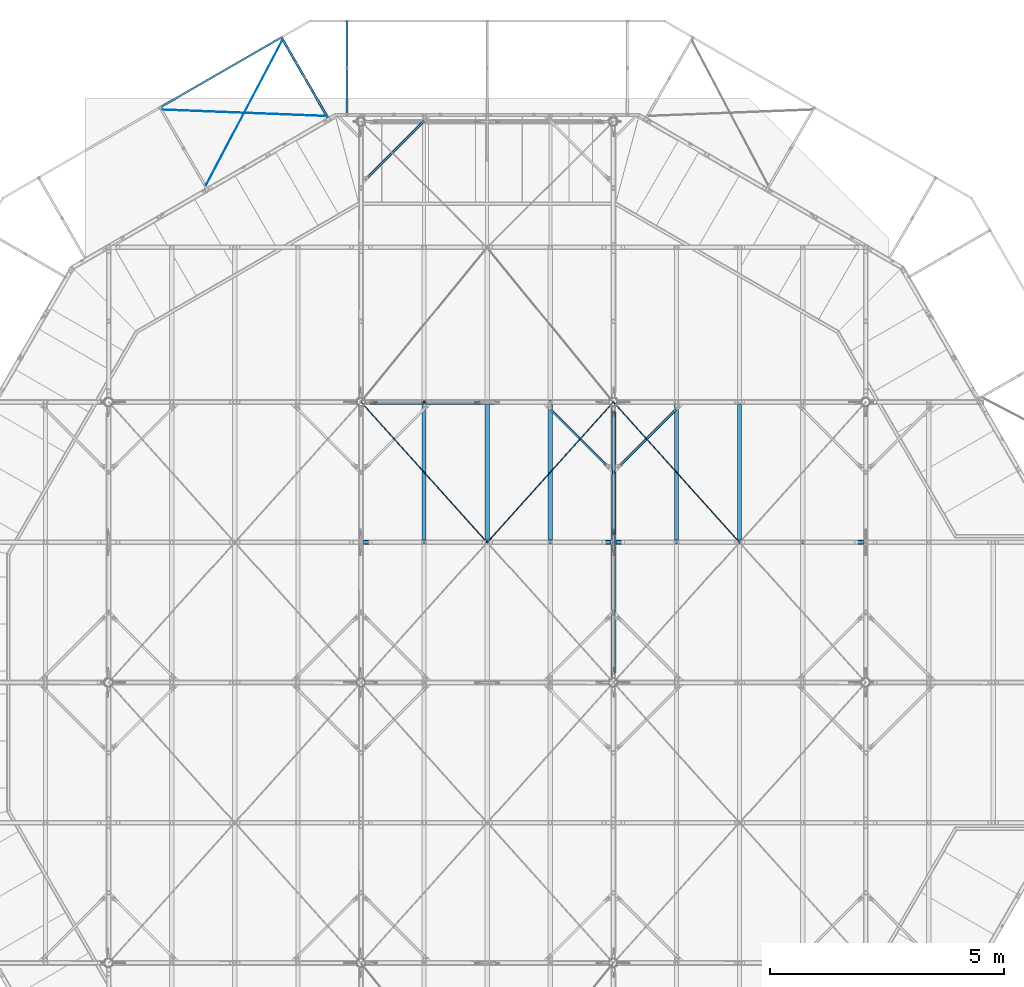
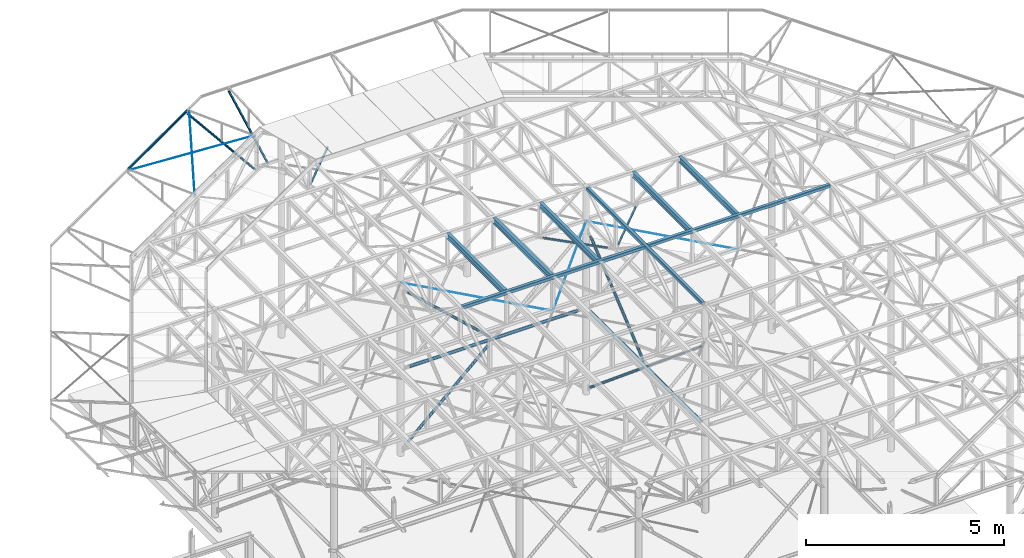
# One storey, part 17 of 132: 19 beams, 9 members, 28 elements without a shape of their own.
"""IFC2X3 building model written with IfcOpenShell, lengths in millimetres."""

from ifc_helpers import new_model, si_unit, frame, origin_with_axes, origin_2d_with_axis, place, context, subcontext, project, spatial, rectangle, hollow_rectangle, circle, hollow_circle, i_section, u_section, extrude, boolean, clip, halfspace, material, type_object, element, aggregate, save


model = new_model("IFC2X3")

# Units and contexts
model_context = context("Model", 3, precision=1e-05, world=origin_with_axes())
body_context = subcontext(model_context, "Body", "Model", "MODEL_VIEW")
ifc_project = project(units=[si_unit("LENGTHUNIT", "METRE", prefix="MILLI"), si_unit("AREAUNIT", "SQUARE_METRE"), si_unit("VOLUMEUNIT", "CUBIC_METRE"), si_unit("MASSUNIT", "GRAM", prefix="KILO"), si_unit("TIMEUNIT", "SECOND"), si_unit("PLANEANGLEUNIT", "RADIAN"), si_unit("SOLIDANGLEUNIT", "STERADIAN"), si_unit("THERMODYNAMICTEMPERATUREUNIT", "DEGREE_CELSIUS"), si_unit("LUMINOUSINTENSITYUNIT", "LUMEN")], contexts=[model_context])

# Site, building, storey
site_placement = place(None, origin_with_axes())
site = spatial("IfcSite", under=ifc_project, at=site_placement, Name="Budowa", CompositionType="ELEMENT")
building_placement = place(site_placement, origin_with_axes())
building = spatial("IfcBuilding", under=site, at=building_placement, Name="Undefined", CompositionType="ELEMENT")
storey_placement = place(building_placement, origin_with_axes())
storey = spatial("IfcBuildingStorey", under=building, at=storey_placement, Name="Undefined", CompositionType="ELEMENT", Elevation=0.0)

# Assembly, member
assembly_1_placement = place(storey_placement, origin_with_axes())
assembly_1 = element("IfcElementAssembly", 1, at=assembly_1_placement, inside=storey, Name="Steel Assembly", AssemblyPlace="NOTDEFINED", PredefinedType="RIGID_FRAME")
ifc_material_1 = material(Name="STEEL/S235JR")
member_type_1 = type_object("IfcMemberType", Name="CHS76.1*3", PredefinedType="NOTDEFINED")
member_1_placement = place(assembly_1_placement, frame((12125.000921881, 17990.0000000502, 10115.9999960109), z_axis=(0.0, -1.0, 0.0), x_axis=(-0.734552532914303, 0.0, -0.67855182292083)))
member_1 = element("IfcMember", 2, at=member_1_placement, type_object=member_type_1, material=ifc_material_1, Name="BEAM", ObjectType="CHS76.1*3", context=body_context, shape_type="CSG", body=[
    boolean("DIFFERENCE", boolean("DIFFERENCE", boolean("DIFFERENCE", boolean("DIFFERENCE", extrude(hollow_circle(Radius=38.05, WallThickness=3.0, at=origin_2d_with_axis()), frame((3399.19882110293, 0.0, 0.0), z_axis=(-1.0, 0.0, 0.0), x_axis=(0.0, -1.0, 0.0)), (0.0, 0.0, 1.0), 3169.77), extrude(rectangle(XDim=10.0, YDim=80.1, at=origin_2d_with_axis()), frame((310.424006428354, -6.75809408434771e-12, 2.93223274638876e-06), z_axis=(-1.0, 0.0, 0.0), x_axis=(0.0, 0.0, -1.0)), (0.0, 0.0, 1.0), 83.0)), extrude(rectangle(XDim=10.0, YDim=78.1, at=origin_2d_with_axis()), frame((3318.19882110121, -3.83376469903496e-07, 2.42306487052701e-06), z_axis=(1.0, 0.0, 0.0), x_axis=(0.0, 0.0, -1.0)), (0.0, 0.0, 1.0), 93.0)), halfspace(frame((3399.19882110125, -3.83374754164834e-07, -11.9999975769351), z_axis=(-1.0, 0.0, 0.0), x_axis=(0.0, 1.0, 0.0)), True)), halfspace(frame((229.424006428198, -7.27595761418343e-12, -11.9999970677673), z_axis=(1.0, 0.0, 0.0), x_axis=(0.0, -1.0, 0.0)), True)),
])
aggregate(assembly_1, [member_1])

assembly_2_placement = place(storey_placement, origin_with_axes())
assembly_2 = element("IfcElementAssembly", 3, at=assembly_2_placement, inside=storey, Name="Steel Assembly", AssemblyPlace="NOTDEFINED", PredefinedType="RIGID_FRAME")
member_2_placement = place(assembly_2_placement, frame((9565.90118396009, 17990.0000000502, 12480.0002212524), z_axis=(0.0, -1.0, 0.0), x_axis=(0.734552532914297, 0.0, -0.678551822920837)))
member_2 = element("IfcMember", 4, at=member_2_placement, type_object=member_type_1, material=ifc_material_1, Name="BEAM", ObjectType="CHS76.1*3", context=body_context, shape_type="CSG", body=[
    boolean("DIFFERENCE", boolean("DIFFERENCE", boolean("DIFFERENCE", boolean("DIFFERENCE", extrude(hollow_circle(Radius=38.05, WallThickness=3.0, at=origin_2d_with_axis()), frame((3254.46533546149, 0.0, 0.0), z_axis=(-1.0, 0.0, 0.0), x_axis=(0.0, -1.0, 0.0)), (0.0, 0.0, 1.0), 3169.77), extrude(rectangle(XDim=10.0, YDim=80.1, at=origin_2d_with_axis()), frame((3173.46533545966, 5.74262859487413e-12, 3.21735569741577e-06), z_axis=(1.0, 0.0, 0.0), x_axis=(0.0, 0.0, -1.0)), (0.0, 0.0, 1.0), 83.0)), extrude(rectangle(XDim=10.0, YDim=78.1, at=origin_2d_with_axis()), frame((165.690516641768, -1.58151269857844e-12, 2.52268364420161e-06), z_axis=(-1.0, 0.0, 0.0), x_axis=(0.0, 0.0, -1.0)), (0.0, 0.0, 1.0), 93.0)), halfspace(frame((3254.46533545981, 3.63797880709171e-12, -11.9999967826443), z_axis=(-1.0, 0.0, 0.0), x_axis=(0.0, 1.0, 0.0)), True)), halfspace(frame((84.6905166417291, 1.81898940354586e-12, -11.9999974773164), z_axis=(1.0, 0.0, 0.0), x_axis=(0.0, -1.0, 0.0)), True)),
])
aggregate(assembly_2, [member_2])

assembly_3_placement = place(storey_placement, origin_with_axes())
assembly_3 = element("IfcElementAssembly", 5, at=assembly_3_placement, inside=storey, Name="Steel Assembly", AssemblyPlace="NOTDEFINED", PredefinedType="RIGID_FRAME")
member_3_placement = place(assembly_3_placement, frame((14833.000002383, 17860.1013797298, 7739.00004577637), z_axis=(-1.0, 0.0, 0.0), x_axis=(0.0, -0.76906919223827, 0.639165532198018)))
member_3 = element("IfcMember", 6, at=member_3_placement, type_object=member_type_1, material=ifc_material_1, Name="BEAM", ObjectType="CHS76.1*3", context=body_context, shape_type="CSG", body=[
    boolean("DIFFERENCE", boolean("DIFFERENCE", boolean("DIFFERENCE", boolean("DIFFERENCE", extrude(hollow_circle(Radius=38.05, WallThickness=3.0, at=origin_2d_with_axis()), frame((3481.05096829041, 0.0, 0.0), z_axis=(-1.0, 0.0, 0.0), x_axis=(0.0, -1.0, 0.0)), (0.0, 0.0, 1.0), 3395.69), extrude(rectangle(XDim=10.0, YDim=80.1, at=origin_2d_with_axis()), frame((3400.05097323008, 9.67559365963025e-14, 1.74737942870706e-06), z_axis=(1.0, 0.0, 0.0), x_axis=(0.0, 0.0, 1.0)), (0.0, 0.0, 1.0), 83.0)), extrude(rectangle(XDim=10.0, YDim=78.0, at=origin_2d_with_axis()), frame((166.363191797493, 5.83418868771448e-11, 2.32343882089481e-06), z_axis=(-1.0, 0.0, 0.0), x_axis=(0.0, 0.0, 1.0)), (0.0, 0.0, 1.0), 93.0)), halfspace(frame((3481.05096828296, 1.09139364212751e-11, 12.0000029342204), z_axis=(-1.0, 0.0, 0.0), x_axis=(0.0, -1.0, 0.0)), True)), halfspace(frame((85.3631917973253, 4.72937244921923e-11, 12.0000023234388), z_axis=(1.0, 0.0, 0.0), x_axis=(0.0, 1.0, 0.0)), True)),
])
aggregate(assembly_3, [member_3])

assembly_4_placement = place(storey_placement, origin_with_axes())
assembly_4 = element("IfcElementAssembly", 7, at=assembly_4_placement, inside=storey, Name="Steel Assembly", AssemblyPlace="NOTDEFINED", PredefinedType="RIGID_FRAME")
member_4_placement = place(assembly_4_placement, frame((14833.000002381, 17860.1013797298, 12492.9997558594), z_axis=(-1.0, 0.0, 0.0), x_axis=(0.0, -0.769069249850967, -0.639165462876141)))
member_4 = element("IfcMember", 8, at=member_4_placement, type_object=member_type_1, material=ifc_material_1, Name="BEAM", ObjectType="CHS76.1*3", context=body_context, shape_type="CSG", body=[
    boolean("DIFFERENCE", boolean("DIFFERENCE", boolean("DIFFERENCE", boolean("DIFFERENCE", extrude(hollow_circle(Radius=38.05, WallThickness=3.0, at=origin_2d_with_axis()), frame((3481.04986608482, -1.93237085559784e-13, 0.0), z_axis=(-1.0, 0.0, 0.0), x_axis=(0.0, -1.0, 0.0)), (0.0, 0.0, 1.0), 3395.69), extrude(rectangle(XDim=10.0, YDim=80.1, at=origin_2d_with_axis()), frame((3400.04985885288, -5.34461364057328e-13, 2.0142820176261e-06), z_axis=(1.0, 0.0, 0.0), x_axis=(0.0, 0.0, 1.0)), (0.0, 0.0, 1.0), 83.0)), extrude(rectangle(XDim=10.0, YDim=88.0, at=origin_2d_with_axis()), frame((166.363191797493, 5.83418868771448e-11, 2.32343882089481e-06), z_axis=(-1.0, 0.0, 0.0), x_axis=(0.0, 0.0, 1.0)), (0.0, 0.0, 1.0), 93.0)), halfspace(frame((3481.04986608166, -1.72803993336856e-11, 12.0000032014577), z_axis=(-1.0, 0.0, 0.0), x_axis=(0.0, -1.0, 0.0)), True)), halfspace(frame((85.3631917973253, 4.72937244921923e-11, 12.0000023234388), z_axis=(1.0, 0.0, 0.0), x_axis=(0.0, 1.0, 0.0)), True)),
])
aggregate(assembly_4, [member_4])

# Assembly, beam
assembly_5_placement = place(storey_placement, origin_with_axes())
assembly_5 = element("IfcElementAssembly", 9, at=assembly_5_placement, inside=storey, Name="Steel Assembly", AssemblyPlace="NOTDEFINED", PredefinedType="RIGID_FRAME")
beam_type_1 = type_object("IfcBeamType", Name="CHS88.9*3", PredefinedType="NOTDEFINED")
beam_1_placement = place(assembly_5_placement, frame((9513.90113818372, 17998.0000028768, 10116.0003779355), z_axis=(0.0, -1.0, 0.0), x_axis=(1.0, 0.0, 0.0)))
beam_1 = element("IfcBeam", 10, at=beam_1_placement, type_object=beam_type_1, material=ifc_material_1, Name="BEAM", ObjectType="CHS88.9*3", context=body_context, shape_type="CSG", body=[
    boolean("DIFFERENCE", boolean("DIFFERENCE", boolean("DIFFERENCE", boolean("DIFFERENCE", boolean("DIFFERENCE", extrude(hollow_circle(Radius=44.45, WallThickness=3.0, at=origin_2d_with_axis()), frame((5057.96216744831, 0.0, 0.0), z_axis=(-1.0, 0.0, 0.0), x_axis=(0.0, -1.0, 0.0)), (0.0, 0.0, 1.0), 4893.73), extrude(rectangle(XDim=9.0, YDim=92.9, at=origin_2d_with_axis()), frame((265.235555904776, 1.81898940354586e-12, 3.42543353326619e-06), z_axis=(-1.0, 0.0, 0.0), x_axis=(0.0, 0.0, 1.0)), (0.0, 0.0, 1.0), 103.0)), extrude(rectangle(XDim=9.0, YDim=92.9, at=origin_2d_with_axis()), frame((4956.96216744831, 1.81898940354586e-12, 3.42543353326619e-06), z_axis=(1.0, 0.0, 0.0), x_axis=(0.0, 0.0, -1.0)), (0.0, 0.0, 1.0), 103.0)), extrude(rectangle(XDim=8.0, YDim=80.1, at=origin_2d_with_axis()), frame((5006.96216666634, 0.0, 2.93223274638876e-06), z_axis=(1.0, 0.0, 0.0), x_axis=(0.0, 0.0, 1.0)), (0.0, 0.0, 1.0), 82.0)), halfspace(frame((5057.96216744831, 1.81898940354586e-12, -11.9999965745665), z_axis=(-1.0, 0.0, 0.0), x_axis=(0.0, 1.0, 0.0)), True)), halfspace(frame((164.235555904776, 1.81898940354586e-12, -11.9999965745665), z_axis=(1.0, 0.0, 0.0), x_axis=(0.0, 0.0, 1.0)), True)),
])
aggregate(assembly_5, [beam_1])

assembly_6_placement = place(storey_placement, origin_with_axes())
assembly_6 = element("IfcElementAssembly", 11, at=assembly_6_placement, inside=storey, Name="Steel Assembly", AssemblyPlace="NOTDEFINED", PredefinedType="RIGID_FRAME")
beam_2_placement = place(assembly_6_placement, frame((14832.9999935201, 12088.900000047, 10116.0003779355), z_axis=(1.0, 0.0, 0.0), x_axis=(0.0, 1.0, 0.0)))
beam_2 = element("IfcBeam", 12, at=beam_2_placement, type_object=beam_type_1, material=ifc_material_1, Name="BEAM", ObjectType="CHS88.9*3", context=body_context, shape_type="CSG", body=[
    boolean("DIFFERENCE", boolean("DIFFERENCE", boolean("DIFFERENCE", boolean("DIFFERENCE", extrude(hollow_circle(Radius=44.45, WallThickness=3.0, at=origin_2d_with_axis()), frame((5703.19209466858, 0.0, 0.0), z_axis=(-1.0, 0.0, 0.0), x_axis=(0.0, -1.0, 0.0)), (0.0, 0.0, 1.0), 5584.18), extrude(rectangle(XDim=9.0, YDim=92.9, at=origin_2d_with_axis()), frame((5602.19209466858, 0.0, 3.70549059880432e-06), z_axis=(1.0, 0.0, 0.0), x_axis=(0.0, 0.0, -1.0)), (0.0, 0.0, 1.0), 103.0)), extrude(rectangle(XDim=9.0, YDim=92.9, at=origin_2d_with_axis()), frame((220.00790537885, 0.0, 3.42542261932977e-06), z_axis=(-1.0, 0.0, 0.0), x_axis=(0.0, 0.0, -1.0)), (0.0, 0.0, 1.0), 103.0)), halfspace(frame((5703.19209466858, 0.0, -11.9999962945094), z_axis=(-1.0, 0.0, 0.0), x_axis=(0.0, 1.0, 0.0)), True)), halfspace(frame((119.00790537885, 0.0, -11.9999965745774), z_axis=(1.0, 0.0, 0.0), x_axis=(0.0, -1.0, 0.0)), True)),
])
aggregate(assembly_6, [beam_2])

# Assembly, member
assembly_7_placement = place(storey_placement, origin_with_axes())
assembly_7 = element("IfcElementAssembly", 13, at=assembly_7_placement, inside=storey, Name="Steel Assembly", AssemblyPlace="NOTDEFINED", PredefinedType="RIGID_FRAME")
ifc_material_2 = material(Name="STEEL/S235")
member_type_2 = type_object("IfcMemberType", Name="CHS60.3*6.3", PredefinedType="NOTDEFINED")
member_5_placement = place(assembly_7_placement, frame((14833.000002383, 17860.1013797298, 7739.00004577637), z_axis=(-1.0, 0.0, 0.0), x_axis=(0.0, -0.76906919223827, 0.639165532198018)))
member_5 = element("IfcMember", 14, at=member_5_placement, type_object=member_type_2, material=ifc_material_2, Name="BEAM", ObjectType="CHS60.3*6.3", context=body_context, shape_type="CSG", body=[
    boolean("DIFFERENCE", boolean("DIFFERENCE", boolean("DIFFERENCE", boolean("DIFFERENCE", extrude(hollow_circle(Radius=30.15, WallThickness=6.3, at=origin_2d_with_axis()), frame((7362.46270940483, -4.08698780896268e-13, 0.0), z_axis=(-1.0, 0.0, 0.0), x_axis=(0.0, -1.0, 0.0)), (0.0, 0.0, 1.0), 7287.1), extrude(rectangle(XDim=8.0, YDim=64.3, at=origin_2d_with_axis()), frame((7312.46270938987, -3.70725672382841e-12, 2.41760744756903e-06), z_axis=(1.0, 0.0, 0.0), x_axis=(0.0, 0.0, 1.0)), (0.0, 0.0, 1.0), 52.0)), extrude(rectangle(XDim=8.0, YDim=64.3, at=origin_2d_with_axis()), frame((125.363191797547, -3.76239039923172e-11, 2.32343927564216e-06), z_axis=(-1.0, 0.0, 0.0), x_axis=(0.0, 0.0, 1.0)), (0.0, 0.0, 1.0), 52.0)), halfspace(frame((7362.46270938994, -7.27595761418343e-12, 12.0000024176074), z_axis=(-1.0, 0.0, 0.0), x_axis=(0.0, -1.0, 0.0)), True)), halfspace(frame((75.3631917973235, -5.0931703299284e-11, 12.0000023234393), z_axis=(1.0, 0.0, 0.0), x_axis=(0.0, 1.0, 0.0)), True)),
])
aggregate(assembly_7, [member_5])

assembly_8_placement = place(storey_placement, origin_with_axes())
assembly_8 = element("IfcElementAssembly", 15, at=assembly_8_placement, inside=storey, Name="Steel Assembly", AssemblyPlace="NOTDEFINED", PredefinedType="RIGID_FRAME")
member_6_placement = place(assembly_8_placement, frame((14833.000002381, 17860.1013797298, 12492.9997558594), z_axis=(-1.0, 0.0, 0.0), x_axis=(0.0, -0.769069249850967, -0.639165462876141)))
member_6 = element("IfcMember", 16, at=member_6_placement, type_object=member_type_2, material=ifc_material_2, Name="BEAM", ObjectType="CHS60.3*6.3", context=body_context, shape_type="CSG", body=[
    boolean("DIFFERENCE", boolean("DIFFERENCE", boolean("DIFFERENCE", boolean("DIFFERENCE", extrude(hollow_circle(Radius=30.15, WallThickness=6.3, at=origin_2d_with_axis()), frame((3572.46182118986, 1.98311468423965e-13, 0.0), z_axis=(-1.0, 0.0, 0.0), x_axis=(0.0, -1.0, 0.0)), (0.0, 0.0, 1.0), 3497.1), extrude(rectangle(XDim=8.0, YDim=64.3, at=origin_2d_with_axis()), frame((3522.46182118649, 2.42827979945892e-12, 2.51177698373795e-06), z_axis=(1.0, 0.0, 0.0), x_axis=(0.0, 0.0, 1.0)), (0.0, 0.0, 1.0), 52.0)), extrude(rectangle(XDim=8.0, YDim=64.3, at=origin_2d_with_axis()), frame((125.363191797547, -3.76239039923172e-11, 2.32343927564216e-06), z_axis=(-1.0, 0.0, 0.0), x_axis=(0.0, 0.0, 1.0)), (0.0, 0.0, 1.0), 52.0)), halfspace(frame((3572.46182118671, 8.18545231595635e-12, 12.000002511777), z_axis=(-1.0, 0.0, 0.0), x_axis=(0.0, -1.0, 0.0)), True)), halfspace(frame((75.3631917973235, -5.0931703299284e-11, 12.0000023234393), z_axis=(1.0, 0.0, 0.0), x_axis=(0.0, 1.0, 0.0)), True)),
])
aggregate(assembly_8, [member_6])

assembly_9_placement = place(storey_placement, origin_with_axes())
assembly_9 = element("IfcElementAssembly", 17, at=assembly_9_placement, inside=storey, Name="Steel Assembly", AssemblyPlace="NOTDEFINED", PredefinedType="RIGID_FRAME")
member_7_placement = place(assembly_9_placement, frame((9565.90118396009, 17992.0000000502, 12480.0002212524), z_axis=(0.0, -1.0, 0.0), x_axis=(0.734552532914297, 0.0, -0.678551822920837)))
member_7 = element("IfcMember", 18, at=member_7_placement, type_object=member_type_2, material=ifc_material_2, Name="BEAM", ObjectType="CHS60.3*6.3", context=body_context, shape_type="CSG", body=[
    boolean("DIFFERENCE", boolean("DIFFERENCE", boolean("DIFFERENCE", boolean("DIFFERENCE", extrude(hollow_circle(Radius=30.15, WallThickness=6.3, at=origin_2d_with_axis()), frame((3341.67300460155, 1.85500115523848e-13, 3.63797880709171e-12), z_axis=(-1.0, 0.0, 0.0), x_axis=(0.0, -1.0, 0.0)), (0.0, 0.0, 1.0), 3266.98), extrude(rectangle(XDim=8.0, YDim=64.3, at=origin_2d_with_axis()), frame((124.690516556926, 3.26183524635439e-13, 2.52269092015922e-06), z_axis=(-1.0, 0.0, 0.0), x_axis=(0.0, 0.0, -1.0)), (0.0, 0.0, 1.0), 52.0)), extrude(rectangle(XDim=8.0, YDim=64.3, at=origin_2d_with_axis()), frame((3291.67300459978, 1.0103029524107e-12, 2.52269092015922e-06), z_axis=(1.0, 0.0, 0.0), x_axis=(0.0, 0.0, -1.0)), (0.0, 0.0, 1.0), 52.0)), halfspace(frame((3341.67300459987, 0.0, -11.9999974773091), z_axis=(-1.0, 0.0, 0.0), x_axis=(0.0, 1.0, 0.0)), True)), halfspace(frame((74.6905165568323, 3.63797880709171e-12, -11.9999974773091), z_axis=(1.0, 0.0, 0.0), x_axis=(0.0, -1.0, 0.0)), True)),
])
aggregate(assembly_9, [member_7])

# Assembly, beam
assembly_10_placement = place(storey_placement, origin_with_axes())
assembly_10 = element("IfcElementAssembly", 19, at=assembly_10_placement, inside=storey, Name="Steel Assembly", AssemblyPlace="NOTDEFINED", PredefinedType="RIGID_FRAME")
beam_type_2 = type_object("IfcBeamType", Name="IPE180", PredefinedType="NOTDEFINED")
beam_3_placement = place(assembly_10_placement, frame((16174.9999999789, 15050.0000000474, 13790.0), z_axis=(0.0, 0.0, 1.0), x_axis=(0.0, 1.0, 0.0)))
beam_3 = element("IfcBeam", 20, at=beam_3_placement, type_object=beam_type_2, material=ifc_material_2, Name="BEAM", ObjectType="IPE180", context=body_context, shape_type="SweptSolid", body=[
    extrude(i_section(OverallWidth=91.0, OverallDepth=180.0, WebThickness=5.300000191, FlangeThickness=8.0, FilletRadius=9.0, at=origin_2d_with_axis()), frame((2900.00000000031, 0.0, 0.0), z_axis=(-1.0, 0.0, 0.0), x_axis=(0.0, -1.0, 0.0)), (0.0, 0.0, 1.0), 2900.0),
])
aggregate(assembly_10, [beam_3])

assembly_11_placement = place(storey_placement, origin_with_axes())
assembly_11 = element("IfcElementAssembly", 21, at=assembly_11_placement, inside=storey, Name="Steel Assembly", AssemblyPlace="NOTDEFINED", PredefinedType="RIGID_FRAME")
beam_4_placement = place(assembly_11_placement, frame((17524.9999999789, 15050.0000000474, 13790.0), z_axis=(0.0, 0.0, 1.0), x_axis=(0.0, 1.0, 0.0)))
beam_4 = element("IfcBeam", 22, at=beam_4_placement, type_object=beam_type_2, material=ifc_material_2, Name="BEAM", ObjectType="IPE180", context=body_context, shape_type="SweptSolid", body=[
    extrude(i_section(OverallWidth=91.0, OverallDepth=180.0, WebThickness=5.300000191, FlangeThickness=8.0, FilletRadius=9.0, at=origin_2d_with_axis()), frame((2900.00000000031, 0.0, 0.0), z_axis=(-1.0, 0.0, 0.0), x_axis=(0.0, -1.0, 0.0)), (0.0, 0.0, 1.0), 2900.0),
])
aggregate(assembly_11, [beam_4])

assembly_12_placement = place(storey_placement, origin_with_axes())
assembly_12 = element("IfcElementAssembly", 23, at=assembly_12_placement, inside=storey, Name="Steel Assembly", AssemblyPlace="NOTDEFINED", PredefinedType="RIGID_FRAME")
beam_5_placement = place(assembly_12_placement, frame((10774.9999999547, 15050.0000000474, 13790.0), z_axis=(0.0, 0.0, 1.0), x_axis=(0.0, 1.0, 0.0)))
beam_5 = element("IfcBeam", 24, at=beam_5_placement, type_object=beam_type_2, material=ifc_material_2, Name="BEAM", ObjectType="IPE180", context=body_context, shape_type="SweptSolid", body=[
    extrude(i_section(OverallWidth=91.0, OverallDepth=180.0, WebThickness=5.300000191, FlangeThickness=8.0, FilletRadius=9.0, at=origin_2d_with_axis()), frame((2900.00000000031, 0.0, 0.0), z_axis=(-1.0, 0.0, 0.0), x_axis=(0.0, -1.0, 0.0)), (0.0, 0.0, 1.0), 2900.0),
])
aggregate(assembly_12, [beam_5])

assembly_13_placement = place(storey_placement, origin_with_axes())
assembly_13 = element("IfcElementAssembly", 25, at=assembly_13_placement, inside=storey, Name="Steel Assembly", AssemblyPlace="NOTDEFINED", PredefinedType="RIGID_FRAME")
beam_6_placement = place(assembly_13_placement, frame((13474.9999999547, 15050.0000000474, 13790.0), z_axis=(0.0, 0.0, 1.0), x_axis=(0.0, 1.0, 0.0)))
beam_6 = element("IfcBeam", 26, at=beam_6_placement, type_object=beam_type_2, material=ifc_material_2, Name="BEAM", ObjectType="IPE180", context=body_context, shape_type="SweptSolid", body=[
    extrude(i_section(OverallWidth=91.0, OverallDepth=180.0, WebThickness=5.300000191, FlangeThickness=8.0, FilletRadius=9.0, at=origin_2d_with_axis()), frame((2900.00000000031, 0.0, 0.0), z_axis=(-1.0, 0.0, 0.0), x_axis=(0.0, -1.0, 0.0)), (0.0, 0.0, 1.0), 2900.0),
])
aggregate(assembly_13, [beam_6])

assembly_14_placement = place(storey_placement, origin_with_axes())
assembly_14 = element("IfcElementAssembly", 27, at=assembly_14_placement, inside=storey, Name="Steel Assembly", AssemblyPlace="NOTDEFINED", PredefinedType="RIGID_FRAME")
beam_7_placement = place(assembly_14_placement, frame((12124.9999999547, 15050.0000000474, 13790.0), z_axis=(0.0, 0.0, 1.0), x_axis=(0.0, 1.0, 0.0)))
beam_7 = element("IfcBeam", 28, at=beam_7_placement, type_object=beam_type_2, material=ifc_material_2, Name="BEAM", ObjectType="IPE180", context=body_context, shape_type="SweptSolid", body=[
    extrude(i_section(OverallWidth=91.0, OverallDepth=180.0, WebThickness=5.300000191, FlangeThickness=8.0, FilletRadius=9.0, at=origin_2d_with_axis()), frame((2900.00000000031, 0.0, 0.0), z_axis=(-1.0, 0.0, 0.0), x_axis=(0.0, -1.0, 0.0)), (0.0, 0.0, 1.0), 2900.0),
])
aggregate(assembly_14, [beam_7])

assembly_15_placement = place(storey_placement, origin_with_axes())
assembly_15 = element("IfcElementAssembly", 29, at=assembly_15_placement, inside=storey, Name="Steel Assembly", AssemblyPlace="NOTDEFINED", PredefinedType="RIGID_FRAME")
beam_type_3 = type_object("IfcBeamType", Name="D10", PredefinedType="NOTDEFINED")
beam_8_placement = place(assembly_15_placement, frame((7736.392244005, 25730.7326009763, 13945.528131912), z_axis=(0.0249673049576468, -0.0432481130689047, 0.998752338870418), x_axis=(-0.465616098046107, -0.884585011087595, -0.0266647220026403)))
beam_8 = element("IfcBeam", 30, at=beam_8_placement, type_object=beam_type_3, material=ifc_material_2, Name="BEAM", ObjectType="D10", context=body_context, shape_type="SweptSolid", body=[
    extrude(circle(Radius=5.0, at=origin_2d_with_axis()), frame((3489.02120950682, 1.67199953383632e-13, 1.2104974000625e-14), z_axis=(-1.0, 0.0, 0.0), x_axis=(0.0, -1.0, 0.0)), (0.0, 0.0, 1.0), 3489.02),
])
aggregate(assembly_15, [beam_8])

assembly_16_placement = place(storey_placement, origin_with_axes())
assembly_16 = element("IfcElementAssembly", 31, at=assembly_16_placement, inside=storey, Name="Steel Assembly", AssemblyPlace="NOTDEFINED", PredefinedType="RIGID_FRAME")
beam_9_placement = place(assembly_16_placement, frame((5181.56602202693, 24255.8214254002, 13945.528131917), z_axis=(0.0249673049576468, -0.0432481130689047, 0.998752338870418), x_axis=(0.998878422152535, -0.0391265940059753, -0.026664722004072)))
beam_9 = element("IfcBeam", 32, at=beam_9_placement, type_object=beam_type_3, material=ifc_material_2, Name="BEAM", ObjectType="D10", context=body_context, shape_type="SweptSolid", body=[
    extrude(circle(Radius=5.0, at=origin_2d_with_axis()), frame((3489.02120950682, 1.67199953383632e-13, 1.2104974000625e-14), z_axis=(-1.0, 0.0, 0.0), x_axis=(0.0, -1.0, 0.0)), (0.0, 0.0, 1.0), 3489.02),
])
aggregate(assembly_16, [beam_9])

assembly_17_placement = place(storey_placement, origin_with_axes())
assembly_17 = element("IfcElementAssembly", 33, at=assembly_17_placement, inside=storey, Name="Steel Assembly", AssemblyPlace="NOTDEFINED", PredefinedType="RIGID_FRAME")
beam_type_4 = type_object("IfcBeamType", Name="C70*40*4", PredefinedType="NOTDEFINED")
beam_10_placement = place(assembly_17_placement, frame((7701.68792246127, 25790.8470764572, 13945.0050192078), z_axis=(0.0, 0.0, -1.0), x_axis=(-0.866042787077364, -0.499969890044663, 0.0)))
beam_10 = element("IfcBeam", 34, at=beam_10_placement, type_object=beam_type_4, material=ifc_material_2, Name="BEAM", ObjectType="C70*40*4", context=body_context, shape_type="SweptSolid", body=[
    extrude(u_section(Depth=70.0, FlangeWidth=40.0, WebThickness=4.0, FlangeThickness=4.0, FilletRadius=6.0, at=origin_2d_with_axis()), frame((2949.99999995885, 1.63757896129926e-13, 0.0), z_axis=(-1.0, 0.0, 0.0), x_axis=(0.0, -1.0, 0.0)), (0.0, 0.0, 1.0), 2950.0),
])
aggregate(assembly_17, [beam_10])

# Assembly, member
assembly_18_placement = place(storey_placement, origin_with_axes())
assembly_18 = element("IfcElementAssembly", 35, at=assembly_18_placement, inside=storey, Name="Steel Assembly", AssemblyPlace="NOTDEFINED", PredefinedType="RIGID_FRAME")
member_type_3 = type_object("IfcMemberType", Name="SHS50*4", PredefinedType="NOTDEFINED")
member_8_placement = place(assembly_18_placement, frame((8719.13940669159, 24078.4309166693, 12802.1351883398), z_axis=(-0.866042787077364, -0.499969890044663, 0.0), x_axis=(-0.442677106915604, 0.766800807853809, 0.464815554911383)))
member_8 = element("IfcMember", 36, at=member_8_placement, type_object=member_type_3, material=ifc_material_2, Name="BEAM", ObjectType="SHS50*4", context=body_context, shape_type="Clipping", body=[
    clip(clip(extrude(hollow_rectangle(XDim=50.0, YDim=50.0, WallThickness=4.0, InnerFilletRadius=4.0, OuterFilletRadius=8.0, at=origin_2d_with_axis()), frame((2325.27637080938, 1.2907876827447e-13, 5.21059351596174e-14), z_axis=(-1.0, 0.0, 0.0), x_axis=(0.0, -1.0, 0.0)), (0.0, 0.0, 1.0), 2325.28), halfspace(frame((26.2486785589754, -24.9999999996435, -25.0000000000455), z_axis=(-0.885407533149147, -0.464815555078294, 0.0), x_axis=(-0.464815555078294, 0.885407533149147, 0.0)), False)), halfspace(frame((2258.9602037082, 25.0000000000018, -1.41881173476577e-10), z_axis=(-0.855808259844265, 0.517293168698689, 0.0), x_axis=(0.0, 0.0, 1.0)), True)),
])
aggregate(assembly_18, [member_8])

assembly_19_placement = place(storey_placement, origin_with_axes())
assembly_19 = element("IfcElementAssembly", 37, at=assembly_19_placement, inside=storey, Name="Steel Assembly", AssemblyPlace="NOTDEFINED", PredefinedType="RIGID_FRAME")
member_9_placement = place(assembly_19_placement, frame((9124.99999998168, 24163.2796111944, 12802.135188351), z_axis=(1.0, 0.0, 0.0), x_axis=(0.0, 0.885407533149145, 0.464815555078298)))
member_9 = element("IfcMember", 38, at=member_9_placement, type_object=member_type_3, material=ifc_material_2, Name="BEAM", ObjectType="SHS50*4", context=body_context, shape_type="Clipping", body=[
    clip(clip(extrude(hollow_rectangle(XDim=50.0, YDim=50.0, WallThickness=4.0, InnerFilletRadius=4.0, OuterFilletRadius=8.0, at=origin_2d_with_axis()), frame((2286.55526217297, 7.105427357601e-15, -1.81898940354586e-12), z_axis=(-1.0, 0.0, 0.0), x_axis=(0.0, -1.0, 0.0)), (0.0, 0.0, 1.0), 2286.56), halfspace(frame((26.2486785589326, 24.9999999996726, -25.0000000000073), z_axis=(-0.885407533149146, 0.464815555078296, 0.0), x_axis=(0.0, 0.0, 1.0)), False)), halfspace(frame((2258.9602037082, -25.0000000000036, -1.40062184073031e-10), z_axis=(-0.855808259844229, -0.517293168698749, 0.0), x_axis=(0.0, 0.0, -1.0)), True)),
])
aggregate(assembly_19, [member_9])

# Assembly, beam
assembly_20_placement = place(storey_placement, origin_with_axes())
assembly_20 = element("IfcElementAssembly", 39, at=assembly_20_placement, inside=storey, Name="Steel Assembly", AssemblyPlace="NOTDEFINED", PredefinedType="RIGID_FRAME")
beam_type_5 = type_object("IfcBeamType", Name="D16", PredefinedType="NOTDEFINED")
beam_11_placement = place(assembly_20_placement, frame((17524.999998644, 15000.0000000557, 12780.0), z_axis=(0.0, 0.0, 1.0), x_axis=(-0.668964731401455, 0.743294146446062, 0.0)))
beam_11 = element("IfcBeam", 40, at=beam_11_placement, type_object=beam_type_5, material=ifc_material_2, Name="BEAM", ObjectType="D16", context=body_context, shape_type="SweptSolid", body=[
    extrude(circle(Radius=8.0, at=origin_2d_with_axis()), frame((4036.08721501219, 2.30699503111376e-13, 1.81898940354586e-12), z_axis=(-1.0, 0.0, 0.0), x_axis=(0.0, -1.0, 0.0)), (0.0, 0.0, 1.0), 4036.09),
])
aggregate(assembly_20, [beam_11])

assembly_21_placement = place(storey_placement, origin_with_axes())
assembly_21 = element("IfcElementAssembly", 41, at=assembly_21_placement, inside=storey, Name="Steel Assembly", AssemblyPlace="NOTDEFINED", PredefinedType="RIGID_FRAME")
beam_12_placement = place(assembly_21_placement, frame((14824.9999999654, 18000.0000000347, 12780.0), z_axis=(0.0, 0.0, 1.0), x_axis=(-0.668964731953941, -0.743294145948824, 0.0)))
beam_12 = element("IfcBeam", 42, at=beam_12_placement, type_object=beam_type_5, material=ifc_material_2, Name="BEAM", ObjectType="D16", context=body_context, shape_type="SweptSolid", body=[
    extrude(circle(Radius=8.0, at=origin_2d_with_axis()), frame((4036.08721501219, 2.30699503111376e-13, 1.81898940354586e-12), z_axis=(-1.0, 0.0, 0.0), x_axis=(0.0, -1.0, 0.0)), (0.0, 0.0, 1.0), 4036.09),
])
aggregate(assembly_21, [beam_12])

assembly_22_placement = place(storey_placement, origin_with_axes())
assembly_22 = element("IfcElementAssembly", 43, at=assembly_22_placement, inside=storey, Name="Steel Assembly", AssemblyPlace="NOTDEFINED", PredefinedType="RIGID_FRAME")
beam_13_placement = place(assembly_22_placement, frame((12124.9999986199, 15000.0000000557, 12780.0), z_axis=(0.0, 0.0, 1.0), x_axis=(-0.668964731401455, 0.743294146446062, 0.0)))
beam_13 = element("IfcBeam", 44, at=beam_13_placement, type_object=beam_type_5, material=ifc_material_2, Name="BEAM", ObjectType="D16", context=body_context, shape_type="SweptSolid", body=[
    extrude(circle(Radius=8.0, at=origin_2d_with_axis()), frame((4036.08721501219, 2.30699503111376e-13, 1.81898940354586e-12), z_axis=(-1.0, 0.0, 0.0), x_axis=(0.0, -1.0, 0.0)), (0.0, 0.0, 1.0), 4036.09),
])
aggregate(assembly_22, [beam_13])

assembly_23_placement = place(storey_placement, origin_with_axes())
assembly_23 = element("IfcElementAssembly", 45, at=assembly_23_placement, inside=storey, Name="Steel Assembly", AssemblyPlace="NOTDEFINED", PredefinedType="RIGID_FRAME")
beam_type_6 = type_object("IfcBeamType", Name="SHS50*5", PredefinedType="NOTDEFINED")
beam_14_placement = place(assembly_23_placement, frame((9174.99999994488, 22414.9000000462, 12830.0), z_axis=(0.0, 0.0, 1.0), x_axis=(0.707106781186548, 0.707106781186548, 0.0)))
beam_14 = element("IfcBeam", 46, at=beam_14_placement, type_object=beam_type_6, material=ifc_material_2, Name="BEAM", ObjectType="SHS50*5", context=body_context, shape_type="Clipping", body=[
    clip(clip(extrude(hollow_rectangle(XDim=50.0, YDim=50.0, WallThickness=5.0, InnerFilletRadius=5.0, OuterFilletRadius=10.0, at=origin_2d_with_axis()), frame((2264.36406349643, -1.81898940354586e-12, 1.81898940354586e-12), z_axis=(-1.0, 0.0, 0.0), x_axis=(0.0, -1.0, 0.0)), (0.0, 0.0, 1.0), 1700.3), halfspace(frame((2264.36406350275, 1.44245859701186e-09, -8.99999999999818), z_axis=(-1.0, 0.0, 0.0), x_axis=(0.0, 1.0, 0.0)), True)), halfspace(frame((564.063061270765, -1.43882061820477e-09, -8.99999999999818), z_axis=(1.0, 0.0, 0.0), x_axis=(0.0, -1.0, 0.0)), True)),
])
aggregate(assembly_23, [beam_14])

assembly_24_placement = place(storey_placement, origin_with_axes())
assembly_24 = element("IfcElementAssembly", 47, at=assembly_24_placement, inside=storey, Name="Steel Assembly", AssemblyPlace="NOTDEFINED", PredefinedType="RIGID_FRAME")
beam_15_placement = place(assembly_24_placement, frame((14574.999999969, 16250.0000000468, 12830.0), z_axis=(0.0, 0.0, 1.0), x_axis=(0.707106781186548, 0.707106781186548, 0.0)))
beam_15 = element("IfcBeam", 48, at=beam_15_placement, type_object=beam_type_6, material=ifc_material_2, Name="BEAM", ObjectType="SHS50*5", context=body_context, shape_type="Clipping", body=[
    clip(clip(extrude(hollow_rectangle(XDim=50.0, YDim=50.0, WallThickness=5.0, InnerFilletRadius=5.0, OuterFilletRadius=10.0, at=origin_2d_with_axis()), frame((2264.36406349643, -1.81898940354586e-12, 1.81898940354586e-12), z_axis=(-1.0, 0.0, 0.0), x_axis=(0.0, -1.0, 0.0)), (0.0, 0.0, 1.0), 1700.3), halfspace(frame((2264.36406350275, 1.44245859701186e-09, -8.99999999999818), z_axis=(-1.0, 0.0, 0.0), x_axis=(0.0, 1.0, 0.0)), True)), halfspace(frame((564.063061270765, -1.43882061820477e-09, -8.99999999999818), z_axis=(1.0, 0.0, 0.0), x_axis=(0.0, -1.0, 0.0)), True)),
])
aggregate(assembly_24, [beam_15])

assembly_25_placement = place(storey_placement, origin_with_axes())
assembly_25 = element("IfcElementAssembly", 49, at=assembly_25_placement, inside=storey, Name="Steel Assembly", AssemblyPlace="NOTDEFINED", PredefinedType="RIGID_FRAME")
beam_16_placement = place(assembly_25_placement, frame((15074.9999999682, 16250.0000000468, 12830.0), z_axis=(0.0, 0.0, 1.0), x_axis=(-0.707106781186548, 0.707106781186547, 0.0)))
beam_16 = element("IfcBeam", 50, at=beam_16_placement, type_object=beam_type_6, material=ifc_material_2, Name="BEAM", ObjectType="SHS50*5", context=body_context, shape_type="Clipping", body=[
    clip(clip(extrude(hollow_rectangle(XDim=50.0, YDim=50.0, WallThickness=5.0, InnerFilletRadius=5.0, OuterFilletRadius=10.0, at=origin_2d_with_axis()), frame((2264.36406349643, -1.81898940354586e-12, 1.81898940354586e-12), z_axis=(-1.0, 0.0, 0.0), x_axis=(0.0, -1.0, 0.0)), (0.0, 0.0, 1.0), 1700.3), halfspace(frame((2264.36406350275, 1.44245859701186e-09, -8.99999999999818), z_axis=(-1.0, 0.0, 0.0), x_axis=(0.0, 1.0, 0.0)), True)), halfspace(frame((564.063061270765, -1.43882061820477e-09, -8.99999999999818), z_axis=(1.0, 0.0, 0.0), x_axis=(0.0, -1.0, 0.0)), True)),
])
aggregate(assembly_25, [beam_16])

assembly_26_placement = place(storey_placement, origin_with_axes())
assembly_26 = element("IfcElementAssembly", 51, at=assembly_26_placement, inside=storey, Name="Steel Assembly", AssemblyPlace="NOTDEFINED", PredefinedType="RIGID_FRAME")
beam_type_7 = type_object("IfcBeamType", Name="SHS100*8", PredefinedType="NOTDEFINED")
beam_17_placement = place(assembly_26_placement, frame((14874.9999999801, 15000.0000000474, 13830.0), z_axis=(0.0, -1.0, 0.0), x_axis=(1.0, 0.0, 0.0)))
beam_17 = element("IfcBeam", 52, at=beam_17_placement, type_object=beam_type_7, material=ifc_material_2, Name="BEAM", ObjectType="SHS100*8", context=body_context, shape_type="SweptSolid", body=[
    extrude(hollow_rectangle(XDim=100.0, YDim=100.0, WallThickness=8.0, InnerFilletRadius=8.0, OuterFilletRadius=16.0, at=origin_2d_with_axis()), frame((5300.0, 0.0, 0.0), z_axis=(-1.0, 0.0, 0.0), x_axis=(0.0, -1.0, 0.0)), (0.0, 0.0, 1.0), 5300.0),
])
aggregate(assembly_26, [beam_17])

assembly_27_placement = place(storey_placement, origin_with_axes())
assembly_27 = element("IfcElementAssembly", 53, at=assembly_27_placement, inside=storey, Name="Steel Assembly", AssemblyPlace="NOTDEFINED", PredefinedType="RIGID_FRAME")
beam_18_placement = place(assembly_27_placement, frame((9474.9999999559, 15000.0000000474, 13830.0), z_axis=(0.0, -1.0, 0.0), x_axis=(1.0, 0.0, 0.0)))
beam_18 = element("IfcBeam", 54, at=beam_18_placement, type_object=beam_type_7, material=ifc_material_2, Name="BEAM", ObjectType="SHS100*8", context=body_context, shape_type="SweptSolid", body=[
    extrude(hollow_rectangle(XDim=100.0, YDim=100.0, WallThickness=8.0, InnerFilletRadius=8.0, OuterFilletRadius=16.0, at=origin_2d_with_axis()), frame((5300.0, 0.0, 0.0), z_axis=(-1.0, 0.0, 0.0), x_axis=(0.0, -1.0, 0.0)), (0.0, 0.0, 1.0), 5300.0),
])
aggregate(assembly_27, [beam_18])

assembly_28_placement = place(storey_placement, origin_with_axes())
assembly_28 = element("IfcElementAssembly", 55, at=assembly_28_placement, inside=storey, Name="Steel Assembly", AssemblyPlace="NOTDEFINED", PredefinedType="RIGID_FRAME")
beam_19_placement = place(assembly_28_placement, frame((14824.999999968, 12088.900000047, 13830.0), z_axis=(1.0, 0.0, 0.0), x_axis=(0.0, 1.0, 0.0)))
beam_19 = element("IfcBeam", 56, at=beam_19_placement, type_object=beam_type_7, material=ifc_material_2, Name="BEAM", ObjectType="SHS100*8", context=body_context, shape_type="CSG", body=[
    boolean("DIFFERENCE", boolean("DIFFERENCE", boolean("DIFFERENCE", boolean("DIFFERENCE", extrude(hollow_rectangle(XDim=100.0, YDim=100.0, WallThickness=8.0, InnerFilletRadius=8.0, OuterFilletRadius=16.0, at=origin_2d_with_axis()), frame((5911.09999999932, 0.0, 0.0), z_axis=(-1.0, 0.0, 0.0), x_axis=(0.0, -1.0, 0.0)), (0.0, 0.0, 1.0), 6000.0), extrude(circle(Radius=89.9, at=origin_2d_with_axis()), frame((5911.09999999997, 1950.0, 0.0), z_axis=(0.0, -1.0, 0.0), x_axis=(-1.0, 0.0, 0.0)), (0.0, 0.0, 1.0), 2100.0)), extrude(circle(Radius=89.9, at=origin_2d_with_axis()), frame((-88.9000000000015, 1950.0, -5.45696821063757e-12), z_axis=(0.0, -1.0, 0.0), x_axis=(-1.0, 0.0, 0.0)), (0.0, 0.0, 1.0), 2100.0)), halfspace(frame((5911.09999999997, -6339.0, -6.3664629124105e-12), z_axis=(-1.0, 0.0, 0.0), x_axis=(0.0, 0.0, -1.0)), True)), halfspace(frame((-88.9000000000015, -6339.0, -5.45696821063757e-12), z_axis=(-1.0, 0.0, 0.0), x_axis=(0.0, 0.0, -1.0)), False)),
])
aggregate(assembly_28, [beam_19])

save(model, "model.ifc")
